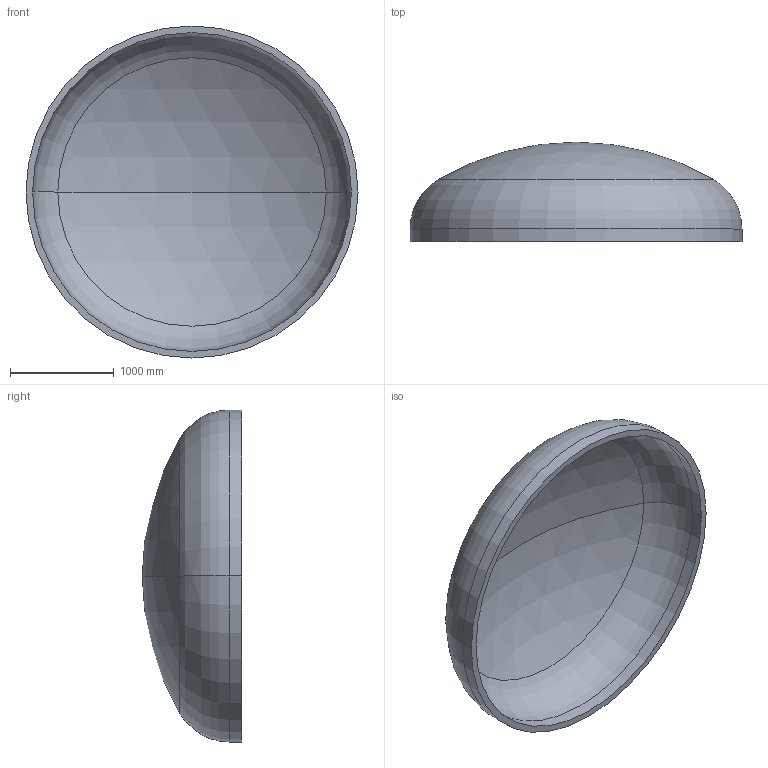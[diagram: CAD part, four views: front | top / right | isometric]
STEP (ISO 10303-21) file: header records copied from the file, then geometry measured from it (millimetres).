
FILE_DESCRIPTION (( 'STEP AP203' ), '1' );
FILE_NAME ('DIN 28013 Korbbogenform_-_Boden DIN 28013 - 3200 x 120 - I - s=64.step', '2016-07-01T18:47:02', ( '' ), ( '' ), 'SwSTEP 2.0', 'SolidWorks 2013', '' );
FILE_SCHEMA (( 'CONFIG_CONTROL_DESIGN' ));
Length unit declared in the file: millimetre
Products named in the file (1): DIN 28013 Korbbogenform_-_Boden DIN 28013 - 3200 x 120 - I - s=64
Bounding box: 3200 x 957.72 x 3200 mm (x, y, z)
Volume: 769232911.6 mm3; surface area: 24677629.1 mm2
Topology: 1 solids, 1 shells, 13 faces, 24 edges, 14 vertices
Faces by surface type: torus 4, cylinder 4, sphere 4, plane 1
Entity records: 407 total; most frequent: DIRECTION 72, CARTESIAN_POINT 52, ORIENTED_EDGE 48, AXIS2_PLACEMENT_3D 34, EDGE_CURVE 24, CIRCLE 20, EDGE_LOOP 14, VERTEX_POINT 14
